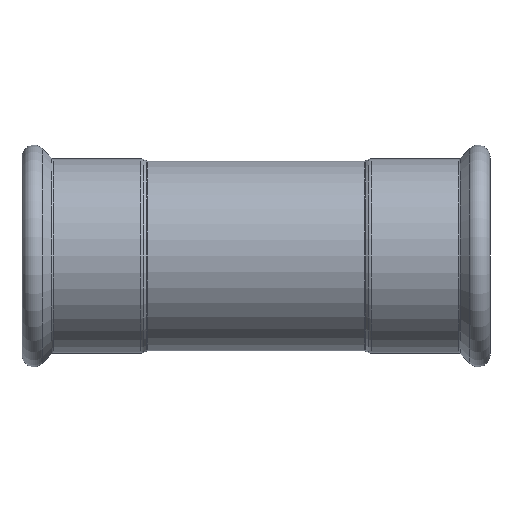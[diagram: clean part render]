
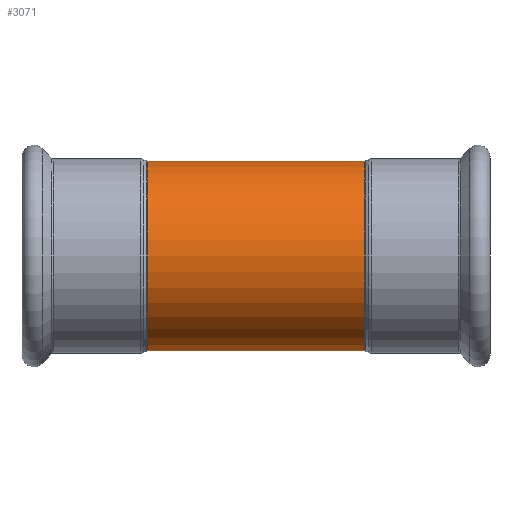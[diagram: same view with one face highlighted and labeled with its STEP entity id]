
A CAD part, front view. The second image highlights one B-rep face of the part: STEP entity #3071.
In plain terms, the highlighted cylindrical face has radius 28 mm (diameter 56 mm), a partial arc.
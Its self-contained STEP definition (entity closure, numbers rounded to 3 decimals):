
#174 = AXIS2_PLACEMENT_3D ( 'NONE', #2602, #2920, #635 ) ;
#203 = DIRECTION ( 'NONE',  ( -1., 0., 0. ) ) ;
#231 = CIRCLE ( 'NONE', #4194, 28. ) ;
#330 = CARTESIAN_POINT ( 'NONE',  ( -32.06, 0., 28. ) ) ;
#555 = DIRECTION ( 'NONE',  ( 0., 0., 1. ) ) ;
#576 = CIRCLE ( 'NONE', #174, 28. ) ;
#635 = DIRECTION ( 'NONE',  ( 0., 0., 1. ) ) ;
#646 = VERTEX_POINT ( 'NONE', #330 ) ;
#712 = ORIENTED_EDGE ( 'NONE', *, *, #1738, .F. ) ;
#720 = VERTEX_POINT ( 'NONE', #1957 ) ;
#747 = ORIENTED_EDGE ( 'NONE', *, *, #3027, .T. ) ;
#796 = ORIENTED_EDGE ( 'NONE', *, *, #1177, .F. ) ;
#1132 = VECTOR ( 'NONE', #1204, 1000. ) ;
#1177 = EDGE_CURVE ( 'NONE', #720, #2388, #3422, .T. ) ;
#1204 = DIRECTION ( 'NONE',  ( -1., 0., 0. ) ) ;
#1205 = ORIENTED_EDGE ( 'NONE', *, *, #3120, .T. ) ;
#1232 = DIRECTION ( 'NONE',  ( -1., 0., 0. ) ) ;
#1492 = CARTESIAN_POINT ( 'NONE',  ( 27.146, 0., 0. ) ) ;
#1534 = DIRECTION ( 'NONE',  ( 0., 0., 1. ) ) ;
#1604 = AXIS2_PLACEMENT_3D ( 'NONE', #1492, #203, #1534 ) ;
#1690 = VECTOR ( 'NONE', #1232, 1000. ) ;
#1738 = EDGE_CURVE ( 'NONE', #2388, #646, #231, .T. ) ;
#1957 = CARTESIAN_POINT ( 'NONE',  ( 32.06, 0., -28. ) ) ;
#2237 = LINE ( 'NONE', #3795, #1132 ) ;
#2388 = VERTEX_POINT ( 'NONE', #2843 ) ;
#2513 = DIRECTION ( 'NONE',  ( -1., 0., 0. ) ) ;
#2602 = CARTESIAN_POINT ( 'NONE',  ( 32.06, 0., 0. ) ) ;
#2646 = VERTEX_POINT ( 'NONE', #3478 ) ;
#2843 = CARTESIAN_POINT ( 'NONE',  ( -32.06, 0., -28. ) ) ;
#2849 = EDGE_LOOP ( 'NONE', ( #796, #1205, #747, #712 ) ) ;
#2920 = DIRECTION ( 'NONE',  ( -1., 0., 0. ) ) ;
#3027 = EDGE_CURVE ( 'NONE', #2646, #646, #2237, .T. ) ;
#3071 = ADVANCED_FACE ( 'NONE', ( #3290 ), #3954, .T. ) ;
#3120 = EDGE_CURVE ( 'NONE', #720, #2646, #576, .T. ) ;
#3290 = FACE_OUTER_BOUND ( 'NONE', #2849, .T. ) ;
#3422 = LINE ( 'NONE', #4146, #1690 ) ;
#3472 = CARTESIAN_POINT ( 'NONE',  ( -32.06, 0., 0. ) ) ;
#3478 = CARTESIAN_POINT ( 'NONE',  ( 32.06, 0., 28. ) ) ;
#3795 = CARTESIAN_POINT ( 'NONE',  ( 27.146, 0., 28. ) ) ;
#3954 = CYLINDRICAL_SURFACE ( 'NONE', #1604, 28. ) ;
#4146 = CARTESIAN_POINT ( 'NONE',  ( 27.146, 0., -28. ) ) ;
#4194 = AXIS2_PLACEMENT_3D ( 'NONE', #3472, #2513, #555 ) ;
